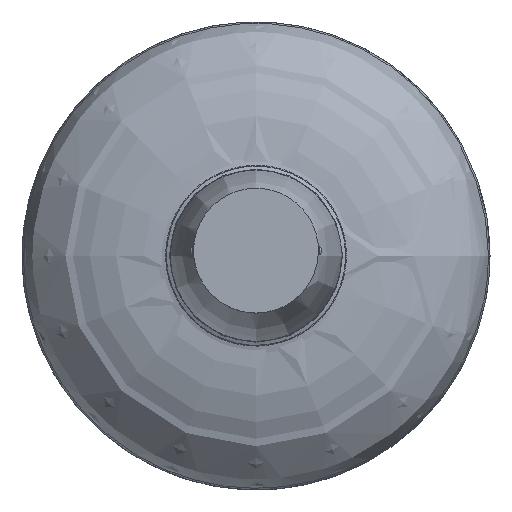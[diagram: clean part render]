
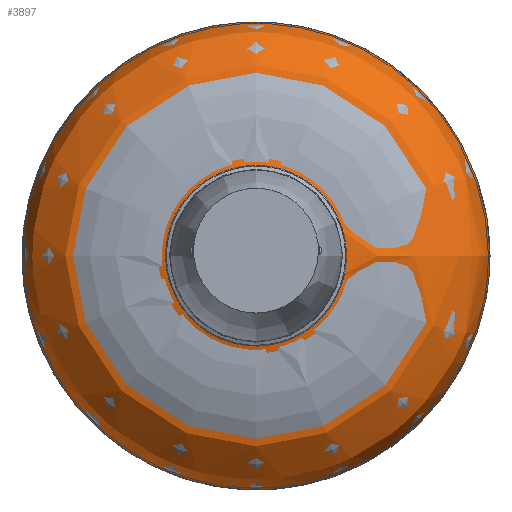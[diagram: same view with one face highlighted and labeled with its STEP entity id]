
A CAD part, top view. The second image highlights one B-rep face of the part: STEP entity #3897.
In plain terms, the highlighted free-form (B-spline) face has degree [2, 2] with [3, 9] control points.
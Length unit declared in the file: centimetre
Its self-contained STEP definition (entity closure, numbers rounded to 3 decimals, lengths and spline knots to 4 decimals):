
#3802 = CARTESIAN_POINT ('', (15., 0., 7.5));
#3803 = VERTEX_POINT ('', #3802);
#3804 = CARTESIAN_POINT ('', (15., 0., 7.5));
#3805 = CARTESIAN_POINT ('', (15., 15., 7.5));
#3806 = CARTESIAN_POINT ('', (0., 15., 7.5));
#3807 = CARTESIAN_POINT ('', (-15., 15., 7.5));
#3808 = CARTESIAN_POINT ('', (-15., 0., 7.5));
#3809 = CARTESIAN_POINT ('', (-15., -15., 7.5));
#3810 = CARTESIAN_POINT ('', (0., -15., 7.5));
#3811 = CARTESIAN_POINT ('', (15., -15., 7.5));
#3812 = CARTESIAN_POINT ('', (15., 0., 7.5));
#3813 = (
   BOUNDED_CURVE ()
   B_SPLINE_CURVE (2, (#3804, #3805, #3806, #3807, #3808, #3809, #3810, #3811, #3812), .UNSPECIFIED., .T., .U.)
   B_SPLINE_CURVE_WITH_KNOTS ((3, 2, 2, 2, 3), (0., 0.25, 0.5, 0.75, 1.), .UNSPECIFIED.)
   CURVE ()
   GEOMETRIC_REPRESENTATION_ITEM ()
   RATIONAL_B_SPLINE_CURVE ((1., 0.707, 1., 0.707, 1., 0.707, 1., 0.707, 1.))
   REPRESENTATION_ITEM ('')
);
#3814 = EDGE_CURVE ('', #3803, #3803, #3813, .T.);
#3845 = CARTESIAN_POINT ('', (5.5, 0., 13.));
#3846 = VERTEX_POINT ('', #3845);
#3847 = CARTESIAN_POINT ('', (5.5, 0., 13.));
#3848 = CARTESIAN_POINT ('', (5.5, 5.5, 13.));
#3849 = CARTESIAN_POINT ('', (0., 5.5, 13.));
#3850 = CARTESIAN_POINT ('', (-5.5, 5.5, 13.));
#3851 = CARTESIAN_POINT ('', (-5.5, 0., 13.));
#3852 = CARTESIAN_POINT ('', (-5.5, -5.5, 13.));
#3853 = CARTESIAN_POINT ('', (0., -5.5, 13.));
#3854 = CARTESIAN_POINT ('', (5.5, -5.5, 13.));
#3855 = CARTESIAN_POINT ('', (5.5, 0., 13.));
#3856 = (
   BOUNDED_CURVE ()
   B_SPLINE_CURVE (2, (#3847, #3848, #3849, #3850, #3851, #3852, #3853, #3854, #3855), .UNSPECIFIED., .T., .U.)
   B_SPLINE_CURVE_WITH_KNOTS ((3, 2, 2, 2, 3), (0., 0.25, 0.5, 0.75, 1.), .UNSPECIFIED.)
   CURVE ()
   GEOMETRIC_REPRESENTATION_ITEM ()
   RATIONAL_B_SPLINE_CURVE ((1., 0.707, 1., 0.707, 1., 0.707, 1., 0.707, 1.))
   REPRESENTATION_ITEM ('')
);
#3857 = EDGE_CURVE ('', #3846, #3846, #3856, .T.);
#3858 = ORIENTED_EDGE ('', *, *, #3857, .F.);
#3859 = CARTESIAN_POINT ('', (5.5, 0., 13.));
#3860 = CARTESIAN_POINT ('', (15., 0., 13.));
#3861 = CARTESIAN_POINT ('', (15., 0., 7.5));
#3862 = (
   BOUNDED_CURVE ()
   B_SPLINE_CURVE (2, (#3859, #3860, #3861), .UNSPECIFIED., .F., .U.)
   B_SPLINE_CURVE_WITH_KNOTS ((3, 3), (6., 7.), .UNSPECIFIED.)
   CURVE ()
   GEOMETRIC_REPRESENTATION_ITEM ()
   RATIONAL_B_SPLINE_CURVE ((1., 0.707, 1.))
   REPRESENTATION_ITEM ('')
);
#3863 = EDGE_CURVE ('', #3846, #3803, #3862, .T.);
#3864 = ORIENTED_EDGE ('', *, *, #3863, .T.);
#3865 = ORIENTED_EDGE ('', *, *, #3814, .T.);
#3866 = ORIENTED_EDGE ('', *, *, #3863, .F.);
#3867 = EDGE_LOOP ('', (#3858, #3864, #3865, #3866));
#3868 = FACE_OUTER_BOUND ('', #3867, .T.);
#3869 = CARTESIAN_POINT ('', (5.5, 0., 13.));
#3870 = CARTESIAN_POINT ('', (5.5, 5.5, 13.));
#3871 = CARTESIAN_POINT ('', (0., 5.5, 13.));
#3872 = CARTESIAN_POINT ('', (-5.5, 5.5, 13.));
#3873 = CARTESIAN_POINT ('', (-5.5, 0., 13.));
#3874 = CARTESIAN_POINT ('', (-5.5, -5.5, 13.));
#3875 = CARTESIAN_POINT ('', (0., -5.5, 13.));
#3876 = CARTESIAN_POINT ('', (5.5, -5.5, 13.));
#3877 = CARTESIAN_POINT ('', (5.5, 0., 13.));
#3878 = CARTESIAN_POINT ('', (15., 0., 13.));
#3879 = CARTESIAN_POINT ('', (15., 15., 13.));
#3880 = CARTESIAN_POINT ('', (0., 15., 13.));
#3881 = CARTESIAN_POINT ('', (-15., 15., 13.));
#3882 = CARTESIAN_POINT ('', (-15., 0., 13.));
#3883 = CARTESIAN_POINT ('', (-15., -15., 13.));
#3884 = CARTESIAN_POINT ('', (0., -15., 13.));
#3885 = CARTESIAN_POINT ('', (15., -15., 13.));
#3886 = CARTESIAN_POINT ('', (15., 0., 13.));
#3887 = CARTESIAN_POINT ('', (15., 0., 7.5));
#3888 = CARTESIAN_POINT ('', (15., 15., 7.5));
#3889 = CARTESIAN_POINT ('', (0., 15., 7.5));
#3890 = CARTESIAN_POINT ('', (-15., 15., 7.5));
#3891 = CARTESIAN_POINT ('', (-15., 0., 7.5));
#3892 = CARTESIAN_POINT ('', (-15., -15., 7.5));
#3893 = CARTESIAN_POINT ('', (0., -15., 7.5));
#3894 = CARTESIAN_POINT ('', (15., -15., 7.5));
#3895 = CARTESIAN_POINT ('', (15., 0., 7.5));
#3896 = (
   BOUNDED_SURFACE ()
   B_SPLINE_SURFACE (2, 2, ((#3869, #3870, #3871, #3872, #3873, #3874, #3875, #3876, #3877), (#3878, #3879, #3880, #3881, #3882, #3883, #3884, #3885, #3886), (#3887, #3888, #3889, #3890, #3891, #3892, #3893, #3894, #3895)), .UNSPECIFIED., .F., .T., .U.)
   B_SPLINE_SURFACE_WITH_KNOTS ((3, 3), (3, 2, 2, 2, 3), (6., 7.), (0., 0.25, 0.5, 0.75, 1.), .UNSPECIFIED.)
   SURFACE ()
   GEOMETRIC_REPRESENTATION_ITEM ()
   RATIONAL_B_SPLINE_SURFACE (((1., 0.707, 1., 0.707, 1., 0.707, 1., 0.707, 1.), (0.707, 0.5, 0.707, 0.5, 0.707, 0.5, 0.707, 0.5, 0.707), (1., 0.707, 1., 0.707, 1., 0.707, 1., 0.707, 1.)))
   REPRESENTATION_ITEM ('')
);
#3897 = ADVANCED_FACE ('', (#3868), #3896, .T.);
